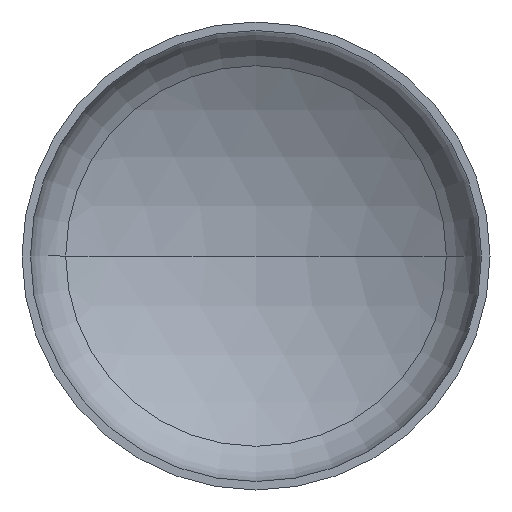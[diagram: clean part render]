
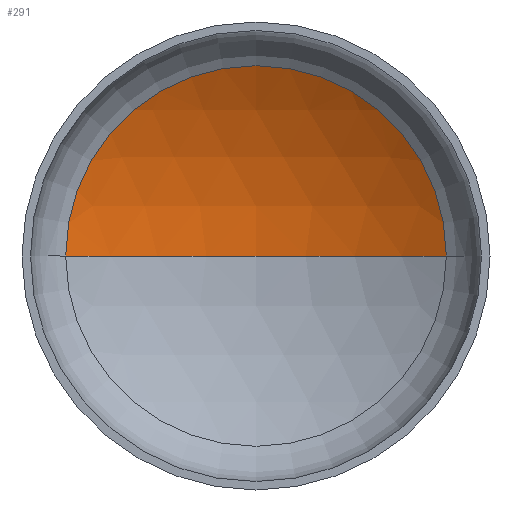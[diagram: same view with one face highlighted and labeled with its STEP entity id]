
A CAD part, front view. The second image highlights one B-rep face of the part: STEP entity #291.
In plain terms, the highlighted spherical face has radius 2560 mm.
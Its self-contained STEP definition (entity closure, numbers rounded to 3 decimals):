
#2 = AXIS2_PLACEMENT_3D ( 'NONE', #177, #399, #330 ) ;
#21 = AXIS2_PLACEMENT_3D ( 'NONE', #376, #208, #59 ) ;
#24 = AXIS2_PLACEMENT_3D ( 'NONE', #256, #84, #278 ) ;
#25 = AXIS2_PLACEMENT_3D ( 'NONE', #165, #334, #195 ) ;
#27 = VERTEX_POINT ( 'NONE', #296 ) ;
#52 = ORIENTED_EDGE ( 'NONE', *, *, #97, .T. ) ;
#59 = DIRECTION ( 'NONE',  ( 1., 0., 0. ) ) ;
#73 = VERTEX_POINT ( 'NONE', #187 ) ;
#77 = ORIENTED_EDGE ( 'NONE', *, *, #99, .F. ) ;
#84 = DIRECTION ( 'NONE',  ( 0., 0., -1. ) ) ;
#95 = EDGE_CURVE ( 'NONE', #73, #109, #295, .T. ) ;
#97 = EDGE_CURVE ( 'NONE', #27, #73, #175, .T. ) ;
#99 = EDGE_CURVE ( 'NONE', #27, #109, #232, .T. ) ;
#106 = EDGE_LOOP ( 'NONE', ( #77, #52, #122 ) ) ;
#109 = VERTEX_POINT ( 'NONE', #275 ) ;
#122 = ORIENTED_EDGE ( 'NONE', *, *, #95, .T. ) ;
#152 = SPHERICAL_SURFACE ( 'NONE', #2, 2560. ) ;
#165 = CARTESIAN_POINT ( 'NONE',  ( 0., 542.004, 0. ) ) ;
#175 = CIRCLE ( 'NONE', #24, 2560. ) ;
#177 = CARTESIAN_POINT ( 'NONE',  ( 0., -1662.75, 0. ) ) ;
#187 = CARTESIAN_POINT ( 'NONE',  ( 1301.024, 542.004, 0. ) ) ;
#195 = DIRECTION ( 'NONE',  ( 1., 0., 0. ) ) ;
#208 = DIRECTION ( 'NONE',  ( 0., 0., 1. ) ) ;
#232 = CIRCLE ( 'NONE', #21, 2560. ) ;
#256 = CARTESIAN_POINT ( 'NONE',  ( 0., -1662.75, 0. ) ) ;
#268 = FACE_OUTER_BOUND ( 'NONE', #106, .T. ) ;
#275 = CARTESIAN_POINT ( 'NONE',  ( -1301.024, 542.004, 0. ) ) ;
#278 = DIRECTION ( 'NONE',  ( -1., 0., 0. ) ) ;
#291 = ADVANCED_FACE ( 'NONE', ( #268 ), #152, .F. ) ;
#295 = CIRCLE ( 'NONE', #25, 1301.024 ) ;
#296 = CARTESIAN_POINT ( 'NONE',  ( 0., 897.25, 0. ) ) ;
#330 = DIRECTION ( 'NONE',  ( -1., 0., 0. ) ) ;
#334 = DIRECTION ( 'NONE',  ( 0., -1., 0. ) ) ;
#376 = CARTESIAN_POINT ( 'NONE',  ( 0., -1662.75, 0. ) ) ;
#399 = DIRECTION ( 'NONE',  ( 0., 0., -1. ) ) ;
